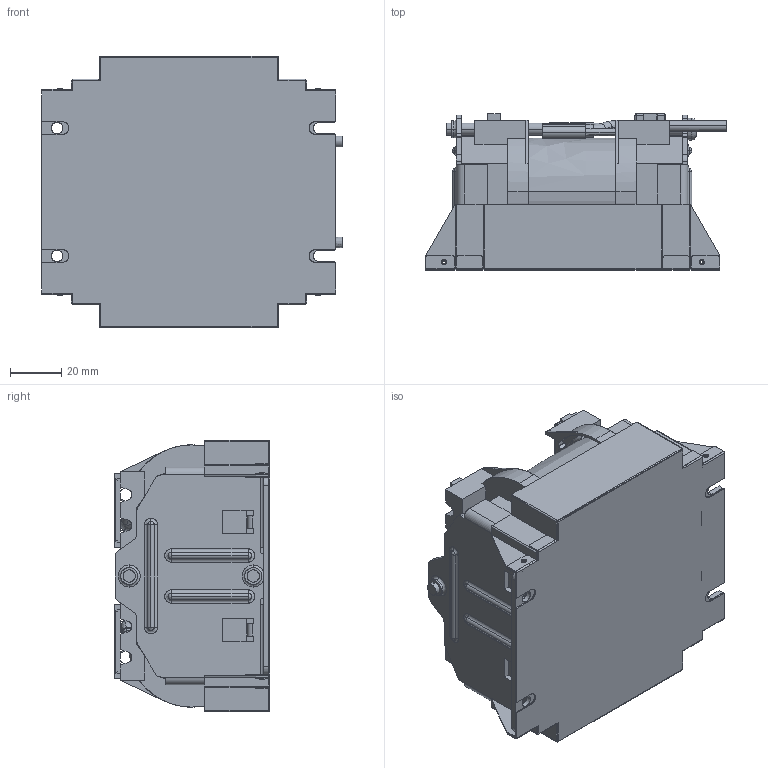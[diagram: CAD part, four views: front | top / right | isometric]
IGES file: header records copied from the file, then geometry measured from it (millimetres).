
Start section: SolidWorks IGES file using analytic representation for surfaces
Global section: file name: 34H\\10.106.230.1\R&D File\05_COMP\02_Mechanical\10_Others\PV_RT 81\网络用3D模型\半灌封模型\4KW_G_DCL\SP12220B-GM00SS20R(M-4KW_DCL-G).IGS; native system: SolidWorks 2009; preprocessor: SolidWorks 2009; author: Administrator; date: 120508.162411; units: millimetre
Bounding box: 117.5 x 60.9 x 106 mm (x, y, z)
Surface area: 157547 mm2 (no closed solid volume)
Topology: 0 solids, 0 shells, 1124 faces, 9042 edges, 9019 vertices
Faces by surface type: bspline 744, revolution 380
